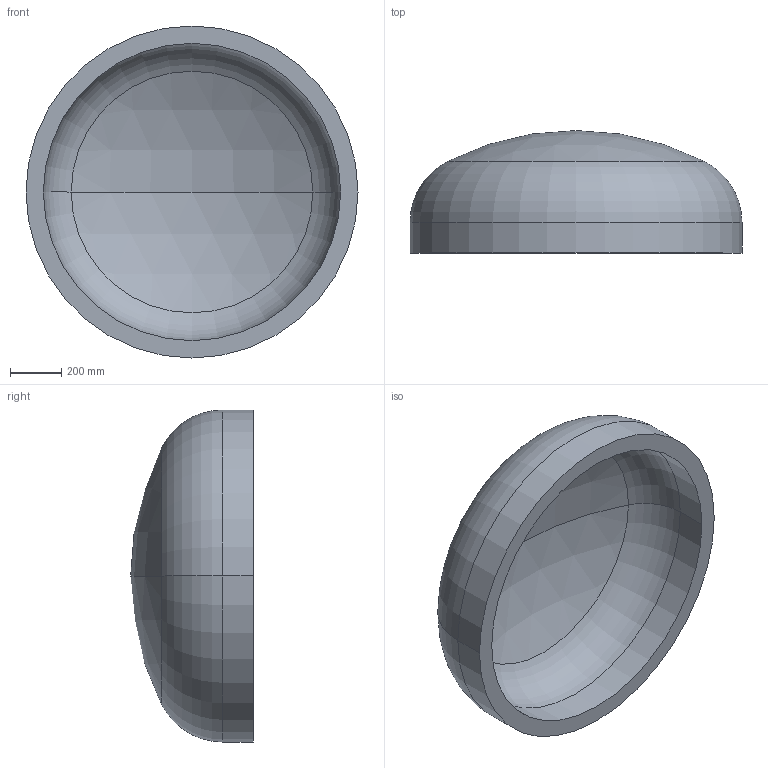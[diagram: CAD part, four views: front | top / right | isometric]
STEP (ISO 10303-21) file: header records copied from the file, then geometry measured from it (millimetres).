
FILE_DESCRIPTION (( 'STEP AP203' ), '1' );
FILE_NAME ('DIN 28013 Korbbogenform_-_Boden DIN 28013 - 1300 x 120 - I - s=68.step', '2016-07-01T09:57:17', ( '' ), ( '' ), 'SwSTEP 2.0', 'SolidWorks 2013', '' );
FILE_SCHEMA (( 'CONFIG_CONTROL_DESIGN' ));
Length unit declared in the file: millimetre
Products named in the file (1): DIN 28013 Korbbogenform_-_Boden DIN 28013 - 1300 x 120 - I - s=68
Bounding box: 1300 x 479.88 x 1300 mm (x, y, z)
Volume: 148453166.1 mm3; surface area: 4639143.1 mm2
Topology: 1 solids, 1 shells, 13 faces, 24 edges, 14 vertices
Faces by surface type: torus 4, cylinder 4, sphere 4, plane 1
Entity records: 407 total; most frequent: DIRECTION 72, CARTESIAN_POINT 52, ORIENTED_EDGE 48, AXIS2_PLACEMENT_3D 34, EDGE_CURVE 24, CIRCLE 20, EDGE_LOOP 14, VERTEX_POINT 14
